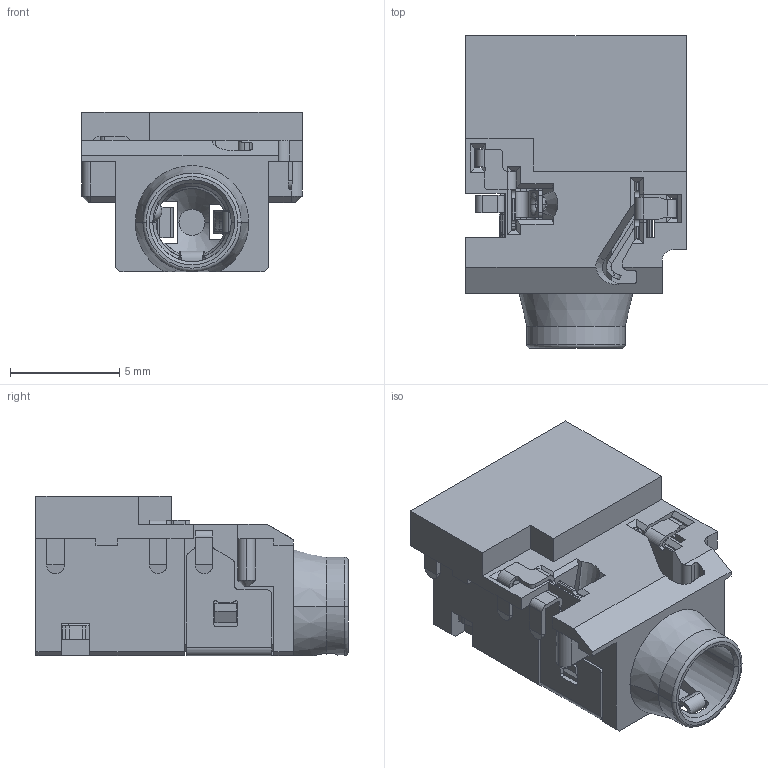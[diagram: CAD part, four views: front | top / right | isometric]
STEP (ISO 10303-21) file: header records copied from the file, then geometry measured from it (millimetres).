
FILE_DESCRIPTION (( 'STEP AP214' ), '1' );
FILE_NAME ('J3E-1.STEP', '2021-04-12T03:03:09', ( '' ), ( '' ), 'SwSTEP 2.0', 'SolidWorks 2016', '' );
FILE_SCHEMA (( 'AUTOMOTIVE_DESIGN' ));
Length unit declared in the file: millimetre
Products named in the file (1): J3E-1
Bounding box: 10.1 x 14.3 x 7.32 mm (x, y, z)
Volume: 423.3 mm3; surface area: 1406.1 mm2
Topology: 1 solids, 1 shells, 984 faces, 2774 edges, 1771 vertices
Faces by surface type: plane 648, cylinder 265, bspline 42, cone 19, torus 6, sphere 4
Entity records: 32312 total; most frequent: CARTESIAN_POINT 7206, ORIENTED_EDGE 5534, DIRECTION 4878, EDGE_CURVE 2767, LINE 2034, VECTOR 2034, VERTEX_POINT 1771, AXIS2_PLACEMENT_3D 1422
